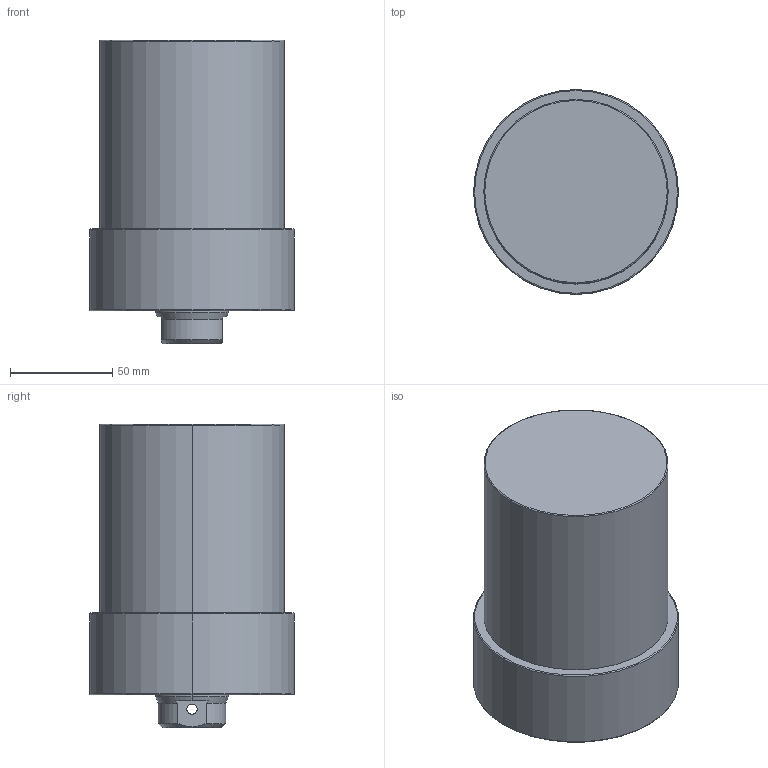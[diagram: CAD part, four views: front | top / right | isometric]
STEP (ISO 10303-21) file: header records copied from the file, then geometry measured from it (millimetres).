
FILE_DESCRIPTION (( 'STEP AP203' ), '1' );
FILE_NAME ('CLLU-090GB-070.STEP', '2020-01-11T01:01:49', ( '' ), ( '' ), 'SwSTEP 2.0', 'SolidWorks 2015', '' );
FILE_SCHEMA (( 'CONFIG_CONTROL_DESIGN' ));
Length unit declared in the file: millimetre
Products named in the file (1): CLLU-090GB-070
Bounding box: 100 x 100 x 148 mm (x, y, z)
Volume: 894738.5 mm3; surface area: 60985 mm2
Topology: 1 solids, 1 shells, 66 faces, 154 edges, 87 vertices
Faces by surface type: cylinder 26, cone 24, plane 10, torus 6
Entity records: 2029 total; most frequent: CARTESIAN_POINT 458, DIRECTION 342, ORIENTED_EDGE 288, EDGE_CURVE 144, AXIS2_PLACEMENT_3D 143, VERTEX_POINT 87, EDGE_LOOP 77, CIRCLE 76
